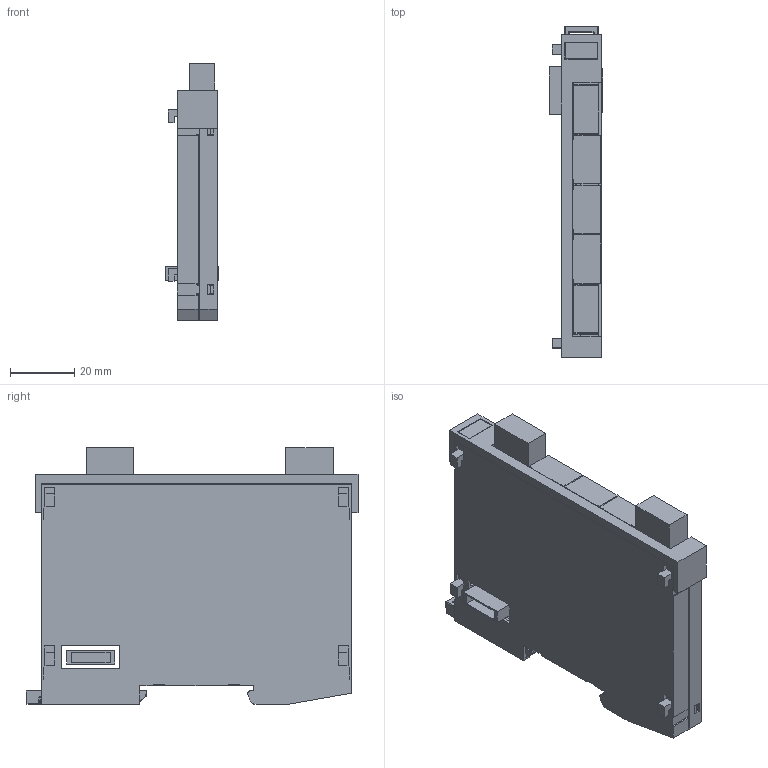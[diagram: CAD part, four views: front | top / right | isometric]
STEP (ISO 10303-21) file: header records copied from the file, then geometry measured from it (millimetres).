
FILE_DESCRIPTION (( 'STEP AP214' ), '1' );
FILE_NAME ('PW022 support.STEP', '2017-11-30T06:47:08', ( 'SIGMATEK GmbH & Co KG' ), ( 'SIGMATEK GmbH & Co KG' ), 'SwSTEP 2.0', 'SolidWorks 2017', '' );
FILE_SCHEMA (( 'AUTOMOTIVE_DESIGN' ));
Length unit declared in the file: millimetre
Products named in the file (12): S-Dias Schale rechts_f Suport; S-Dias Schale links_f Suport; 4110251342_MF 10-5 MC CABUR_1854510000; PW022 support; Steckerabdeckung_Var 9; LP_PW022; Dummy_4110262104 4pol.Federkraftstecker f.2reih 1952283; Dummy_4110251205 4pol.Minicombicon-Grundgehäuse RM3,5 1937512; Dummy_4080225346 Erni Stift; Dummy_4080225345 Erni Buchse; S-Dias Rasthaken 20130313; Schieber_f Suport
Assembly tree (15 placements, depth 3):
  PW022 support
    4110251342_MF 10-5 MC CABUR_1854510000
    S-Dias Schale links_f Suport
    S-Dias Schale rechts_f Suport
    Schieber_f Suport
    S-Dias Rasthaken 20130313
    LP_PW022
      Dummy_4080225345 Erni Buchse
      Dummy_4080225346 Erni Stift
      Dummy_4110251205 4pol.Minicombicon-Grundgehäuse RM3,5 1937512  x2
      Dummy_4110262104 4pol.Federkraftstecker f.2reih 1952283  x2
    Steckerabdeckung_Var 9  x3
Bounding box: 16.8 x 103.61 x 80.15 mm (x, y, z)
Volume: 27279.9 mm3; surface area: 44260.3 mm2
Topology: 14 solids, 14 shells, 961 faces, 2779 edges, 1840 vertices
Faces by surface type: plane 701, cylinder 149, bspline 55, cone 28, torus 15, sphere 13
Entity records: 32035 total; most frequent: CARTESIAN_POINT 7542, ORIENTED_EDGE 4768, DIRECTION 3745, EDGE_CURVE 2384, LINE 1717, VECTOR 1717, VERTEX_POINT 1584, AXIS2_PLACEMENT_3D 1014
